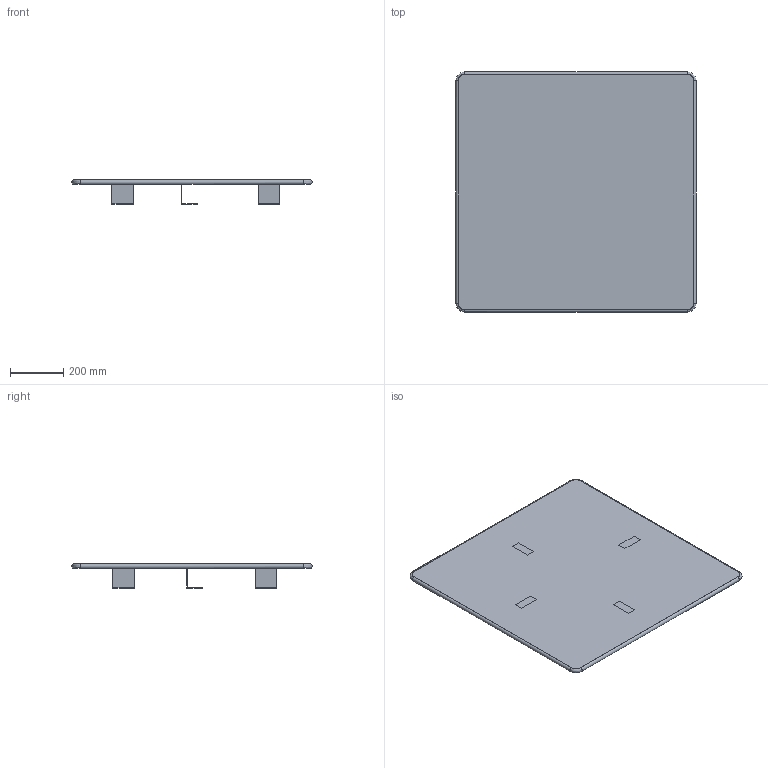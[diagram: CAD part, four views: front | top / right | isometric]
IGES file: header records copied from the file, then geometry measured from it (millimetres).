
Start section: SolidWorks IGES file using NURBS representation for surfaces
Global section: file name: G:\VICCARBE\PRODUCTOS\26-PANELES LAYER\04-MODELADOS (PLANOS)\especiales para 3D\VICCARBE_LayerPanel_900x900d85.IGS; native system: SolidWorks 2009; preprocessor: SolidWorks 2009; author: RUBEN; date: 110906.115901; units: millimetre
Bounding box: 901 x 901 x 90.5 mm (x, y, z)
Surface area: 1957303.7 mm2 (no closed solid volume)
Topology: 0 solids, 0 shells, 65 faces, 436 edges, 436 vertices
Faces by surface type: bspline 65
